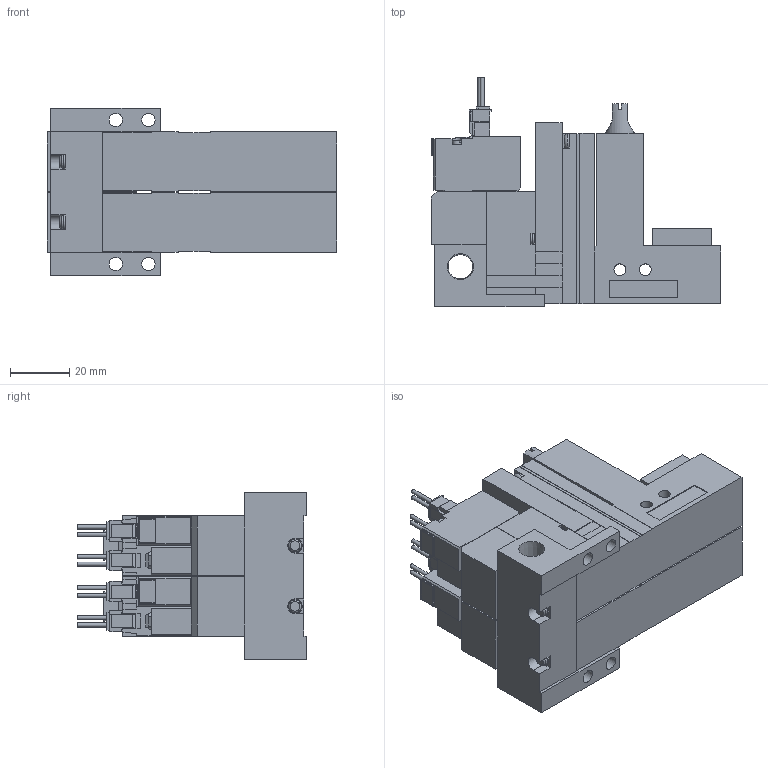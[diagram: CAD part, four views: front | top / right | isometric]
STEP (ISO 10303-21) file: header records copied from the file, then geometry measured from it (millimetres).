
FILE_DESCRIPTION(('STEP AP203'),'1');
FILE_NAME('ZLC5ALR202.stp','2025-02-18T06:22:19',(' '),(' '),'Spatial InterOp 3D',' ',' ');
FILE_SCHEMA(('CONFIG_CONTROL_DESIGN'));
Length unit declared in the file: millimetre
Products named in the file (5): BMC22M※※※※ZLC5ALR202; Solenoid valve A; Pressure sensor ZLC; Unit LC; Base MR20R
Assembly tree (7 placements, depth 2):
  BMC22M※※※※ZLC5ALR202
    Solenoid valve A  x2
    Pressure sensor ZLC  x2
    Unit LC  x2
    Base MR20R
Bounding box: 97.6 x 77.45 x 56.5 mm (x, y, z)
Volume: 183807.8 mm3; surface area: 49896.3 mm2
Topology: 7 solids, 7 shells, 785 faces, 2131 edges, 1398 vertices
Faces by surface type: plane 674, cylinder 85, cone 16, torus 10
Full cylindrical faces by diameter (mm): 1.4 x8, 2.5 x2, 3 x8, 3.5 x8, 3.6 x2, 4 x4, 4.134 x2, 4.5 x4, 5.2 x2, 6 x2, 6.6 x2, 8.279 x1
Entity records: 13113 total; most frequent: CARTESIAN_POINT 2458, ORIENTED_EDGE 2130, DIRECTION 2057, EDGE_CURVE 1065, LINE 913, VECTOR 913, VERTEX_POINT 727, AXIS2_PLACEMENT_3D 572
